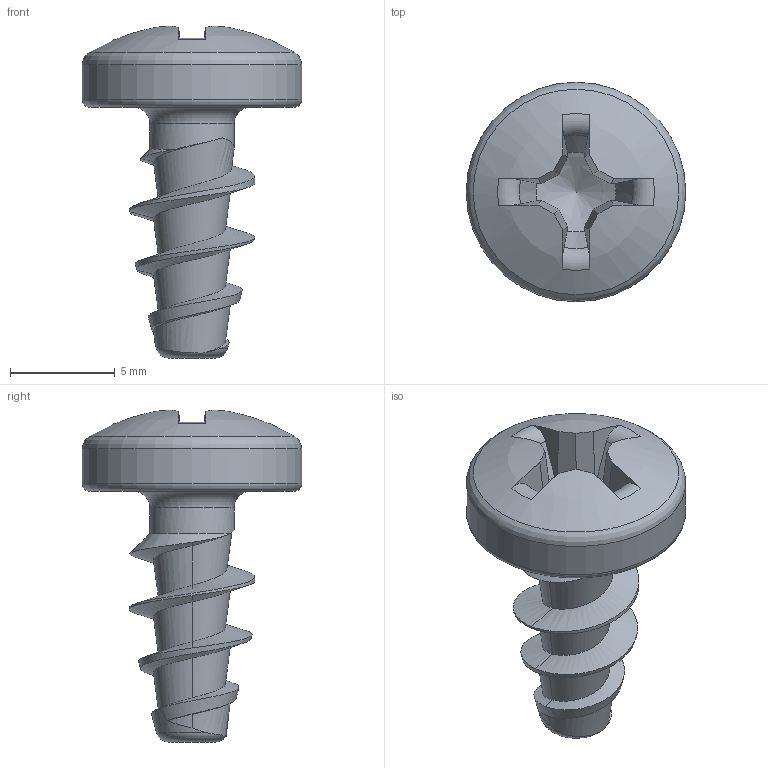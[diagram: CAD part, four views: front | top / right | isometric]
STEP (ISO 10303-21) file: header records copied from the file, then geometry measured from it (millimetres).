
FILE_DESCRIPTION(/* description */ (''),/* implementation_level */ '2;1');
FILE_NAME(/* name */ 'KN1032-Neu-STS-60x12-H3.step',/* time_stamp */ '2018-08-15T15:50:27+02:00',/* author */ (''),/* organization */ (''),/* preprocessor_version */ 'ST-DEVELOPER v16',/* originating_system */ 'SIEMENS PLM Software NX 10.0',/* authorisation */ '');
FILE_SCHEMA (('AUTOMOTIVE_DESIGN { 1 0 10303 214 3 1 1 1 }'));
Length unit declared in the file: millimetre
Products named in the file (1): KN1032-STS-60x12-H3
Bounding box: 10.5 x 10.5 x 15.88 mm (x, y, z)
Volume: 387.7 mm3; surface area: 493.8 mm2
Topology: 1 solids, 1 shells, 51 faces, 137 edges, 88 vertices
Faces by surface type: plane 18, bspline 14, torus 8, cone 7, cylinder 3, sphere 1
Full cylindrical faces by diameter (mm): 4.03 x1, 10.5 x1
Entity records: 2515 total; most frequent: CARTESIAN_POINT 1413, ORIENTED_EDGE 246, DIRECTION 177, EDGE_CURVE 123, VERTEX_POINT 83, AXIS2_PLACEMENT_3D 77, B_SPLINE_CURVE_WITH_KNOTS 61, EDGE_LOOP 59
